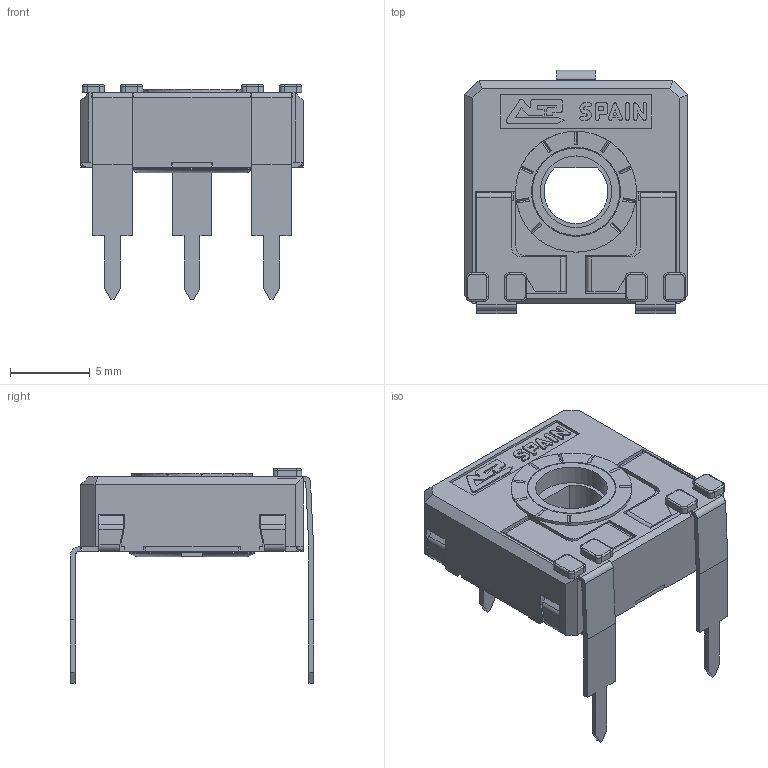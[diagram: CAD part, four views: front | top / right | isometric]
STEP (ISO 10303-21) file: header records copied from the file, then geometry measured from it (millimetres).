
FILE_DESCRIPTION(/* description */ (''),/* implementation_level */ '2;1');
FILE_NAME(/* name */ 'C:\Users\CEM\Desktop\ENVIAR\TRANSICION 3D CATALOGOS\RS14FVJ15 RT-RO.stp',/* time_stamp */ '2025-12-10T10:33:16+01:00',/* author */ ('CEM'),/* organization */ (''),/* preprocessor_version */ 'ST-DEVELOPER v16.13',/* originating_system */ 'Autodesk Inventor 2018',/* authorisation */ '');
FILE_SCHEMA (('AUTOMOTIVE_DESIGN { 1 0 10303 214 3 1 1 }'));
Length unit declared in the file: millimetre
Products named in the file (1): CARCASA CA14 PGA
Bounding box: 14 x 15.3 x 13.5 mm (x, y, z)
Volume: 530.1 mm3; surface area: 1511.1 mm2
Topology: 1 solids, 1 shells, 671 faces, 1887 edges, 1213 vertices
Faces by surface type: plane 496, cylinder 138, torus 23, bspline 8, cone 6
Full cylindrical faces by diameter (mm): 4.5 x1, 5.5 x1, 5.6 x1, 5.752 x1, 6.8 x1, 7.6 x1
Entity records: 21701 total; most frequent: CARTESIAN_POINT 3964, ORIENTED_EDGE 3744, DIRECTION 3532, EDGE_CURVE 1872, LINE 1484, VECTOR 1484, VERTEX_POINT 1208, AXIS2_PLACEMENT_3D 1024
